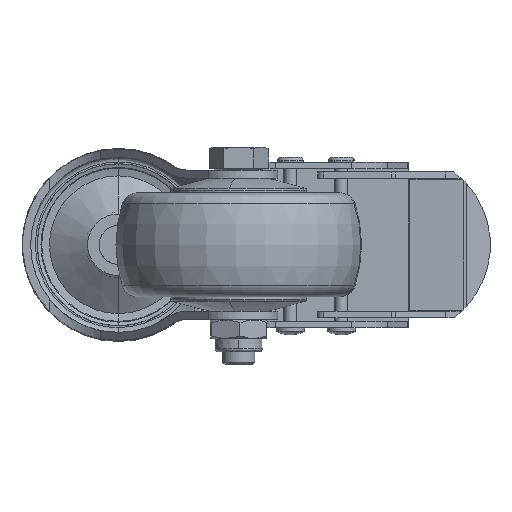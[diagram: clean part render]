
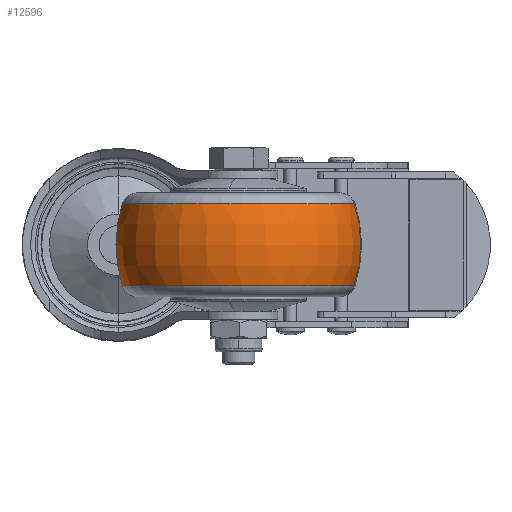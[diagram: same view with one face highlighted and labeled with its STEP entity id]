
A CAD part, front view. The second image highlights one B-rep face of the part: STEP entity #12596.
In plain terms, the highlighted toroidal (fillet/blend) face has major radius 0.321 mm and minor radius 38.321 mm.
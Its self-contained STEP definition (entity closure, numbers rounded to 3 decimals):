
#10 = DIRECTION ( 'NONE',  ( -1., 0., 0. ) ) ;
#116 = ORIENTED_EDGE ( 'NONE', *, *, #4152, .T. ) ;
#292 = DIRECTION ( 'NONE',  ( 0., 0., 1. ) ) ;
#888 = DIRECTION ( 'NONE',  ( 0., 0., 1. ) ) ;
#1219 = DIRECTION ( 'NONE',  ( 0., -1., 0. ) ) ;
#1312 = FACE_OUTER_BOUND ( 'NONE', #9850, .T. ) ;
#1592 = CARTESIAN_POINT ( 'NONE',  ( -2.946, 0., 0.321 ) ) ;
#2389 = ORIENTED_EDGE ( 'NONE', *, *, #12336, .T. ) ;
#2408 = AXIS2_PLACEMENT_3D ( 'NONE', #12054, #10, #8616 ) ;
#2671 = CARTESIAN_POINT ( 'NONE',  ( 9.704, 0., 0. ) ) ;
#3238 = CIRCLE ( 'NONE', #11714, 35.852 ) ;
#3527 = CARTESIAN_POINT ( 'NONE',  ( -15.597, 0., 0. ) ) ;
#4152 = EDGE_CURVE ( 'NONE', #4915, #17040, #9794, .T. ) ;
#4271 = ORIENTED_EDGE ( 'NONE', *, *, #13429, .F. ) ;
#4331 = DIRECTION ( 'NONE',  ( -1., 0., 0. ) ) ;
#4915 = VERTEX_POINT ( 'NONE', #9896 ) ;
#5081 = VERTEX_POINT ( 'NONE', #9714 ) ;
#5728 = DIRECTION ( 'NONE',  ( 0., 1., 0. ) ) ;
#7115 = CIRCLE ( 'NONE', #16393, 38.321 ) ;
#7152 = VERTEX_POINT ( 'NONE', #13048 ) ;
#7917 = CARTESIAN_POINT ( 'NONE',  ( -2.946, 0., -0.321 ) ) ;
#8616 = DIRECTION ( 'NONE',  ( 0., 0., 1. ) ) ;
#8831 = EDGE_CURVE ( 'NONE', #5081, #7152, #7115, .T. ) ;
#9687 = DIRECTION ( 'NONE',  ( 0., 0., 1. ) ) ;
#9712 = CIRCLE ( 'NONE', #11390, 35.852 ) ;
#9714 = CARTESIAN_POINT ( 'NONE',  ( 9.704, 0., -35.852 ) ) ;
#9794 = CIRCLE ( 'NONE', #12595, 38.321 ) ;
#9850 = EDGE_LOOP ( 'NONE', ( #16060, #2389, #116, #4271 ) ) ;
#9896 = CARTESIAN_POINT ( 'NONE',  ( 9.704, 0., 35.852 ) ) ;
#10546 = TOROIDAL_SURFACE ( 'NONE', #2408, -0.321, 38.321 ) ;
#11390 = AXIS2_PLACEMENT_3D ( 'NONE', #3527, #12946, #888 ) ;
#11714 = AXIS2_PLACEMENT_3D ( 'NONE', #2671, #4331, #292 ) ;
#11958 = DIRECTION ( 'NONE',  ( 0., 0., -1. ) ) ;
#12054 = CARTESIAN_POINT ( 'NONE',  ( -2.946, 0., 0. ) ) ;
#12336 = EDGE_CURVE ( 'NONE', #5081, #4915, #3238, .T. ) ;
#12595 = AXIS2_PLACEMENT_3D ( 'NONE', #7917, #1219, #11958 ) ;
#12596 = ADVANCED_FACE ( 'NONE', ( #1312 ), #10546, .T. ) ;
#12946 = DIRECTION ( 'NONE',  ( -1., 0., 0. ) ) ;
#13048 = CARTESIAN_POINT ( 'NONE',  ( -15.597, 0., -35.852 ) ) ;
#13228 = CARTESIAN_POINT ( 'NONE',  ( -15.597, 0., 35.852 ) ) ;
#13429 = EDGE_CURVE ( 'NONE', #7152, #17040, #9712, .T. ) ;
#16060 = ORIENTED_EDGE ( 'NONE', *, *, #8831, .F. ) ;
#16393 = AXIS2_PLACEMENT_3D ( 'NONE', #1592, #5728, #9687 ) ;
#17040 = VERTEX_POINT ( 'NONE', #13228 ) ;
